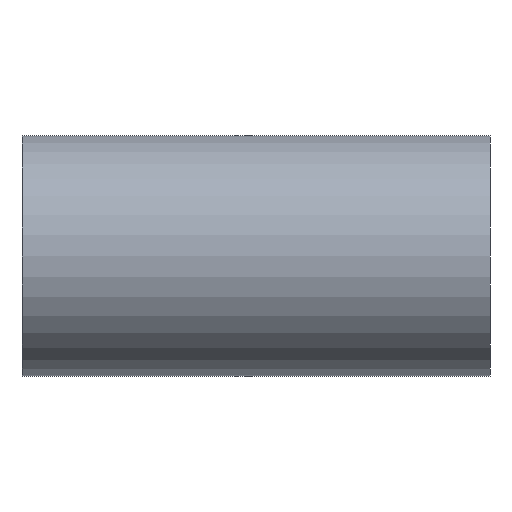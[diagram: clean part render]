
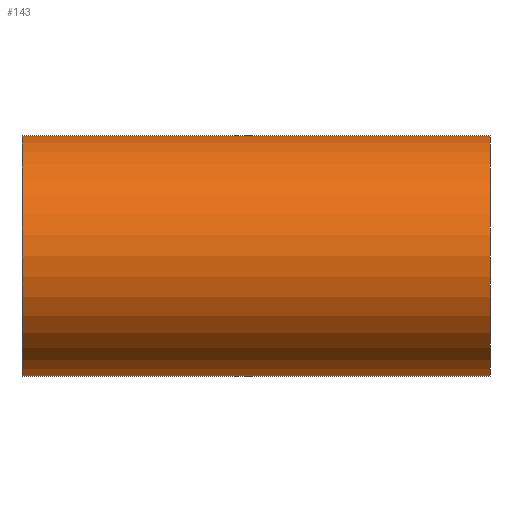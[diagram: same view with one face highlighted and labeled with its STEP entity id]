
A CAD part, front view. The second image highlights one B-rep face of the part: STEP entity #143.
In plain terms, the highlighted cylindrical face has radius 9 mm (diameter 18 mm), a partial arc.
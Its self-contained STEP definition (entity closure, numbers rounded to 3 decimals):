
#75 = VERTEX_POINT( '', #179 );
#83 = VERTEX_POINT( '', #187 );
#95 = EDGE_CURVE( '', #139, #83, #199, .T. );
#101 = EDGE_CURVE( '', #119, #75, #206, .T. );
#113 = EDGE_CURVE( '', #75, #139, #221, .T. );
#119 = VERTEX_POINT( '', #227 );
#139 = VERTEX_POINT( '', #251 );
#143 = ADVANCED_FACE( '', ( #255 ), #256, .T. );
#151 = EDGE_CURVE( '', #119, #83, #265, .T. );
#179 = CARTESIAN_POINT( '', ( 17.5, -30., 9. ) );
#187 = CARTESIAN_POINT( '', ( -17.5, -30., -9. ) );
#199 = LINE( '', #363, #364 );
#206 = LINE( '', #374, #375 );
#221 = CIRCLE( '', #409, 9. );
#227 = CARTESIAN_POINT( '', ( -17.5, -30., 9. ) );
#251 = CARTESIAN_POINT( '', ( 17.5, -30., -9. ) );
#255 = FACE_OUTER_BOUND( '', #447, .T. );
#256 = CYLINDRICAL_SURFACE( '', #448, 9. );
#265 = CIRCLE( '', #460, 9. );
#363 = CARTESIAN_POINT( '', ( 17.5, -30., -9. ) );
#364 = VECTOR( '', #481, 1. );
#374 = CARTESIAN_POINT( '', ( 17.5, -30., 9. ) );
#375 = VECTOR( '', #489, 1. );
#409 = AXIS2_PLACEMENT_3D( '', #513, #514, #515 );
#447 = EDGE_LOOP( '', ( #555, #556, #557, #558 ) );
#448 = AXIS2_PLACEMENT_3D( '', #559, #560, #561 );
#460 = AXIS2_PLACEMENT_3D( '', #574, #575, #576 );
#481 = DIRECTION( '', ( -1., 0., 0. ) );
#489 = DIRECTION( '', ( 1., 0., 0. ) );
#513 = CARTESIAN_POINT( '', ( 17.5, -30., 0. ) );
#514 = DIRECTION( '', ( 1., 0., 0. ) );
#515 = DIRECTION( '', ( 0., 0., -1. ) );
#555 = ORIENTED_EDGE( '', *, *, #95, .F. );
#556 = ORIENTED_EDGE( '', *, *, #113, .F. );
#557 = ORIENTED_EDGE( '', *, *, #101, .F. );
#558 = ORIENTED_EDGE( '', *, *, #151, .T. );
#559 = CARTESIAN_POINT( '', ( 17.5, -30., 0. ) );
#560 = DIRECTION( '', ( 1., 0., 0. ) );
#561 = DIRECTION( '', ( 0., 0., -1. ) );
#574 = CARTESIAN_POINT( '', ( -17.5, -30., 0. ) );
#575 = DIRECTION( '', ( 1., 0., 0. ) );
#576 = DIRECTION( '', ( 0., 0., -1. ) );
